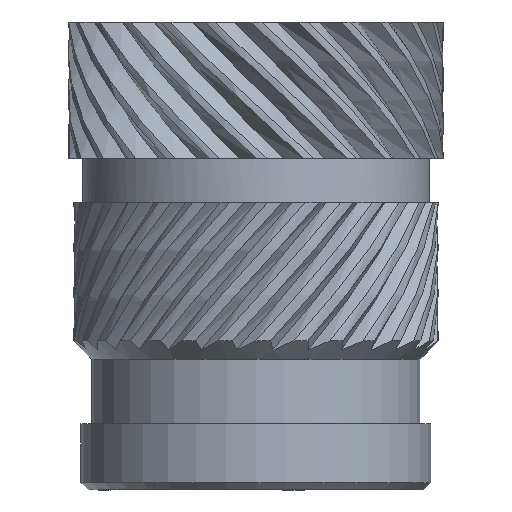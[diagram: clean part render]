
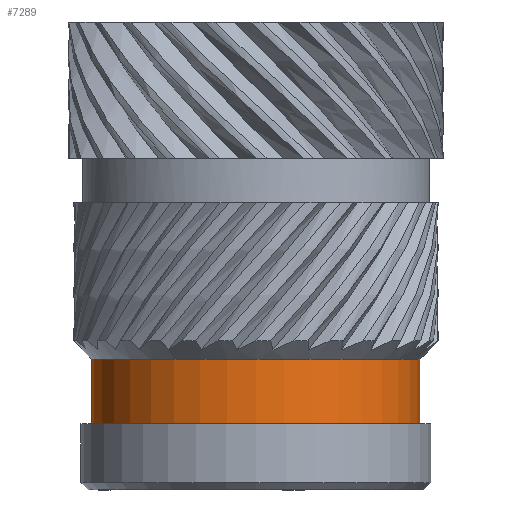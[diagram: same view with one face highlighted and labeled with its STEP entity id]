
A CAD part, front view. The second image highlights one B-rep face of the part: STEP entity #7289.
In plain terms, the highlighted cylindrical face has radius 4.45 mm (diameter 8.9 mm), a full revolution.
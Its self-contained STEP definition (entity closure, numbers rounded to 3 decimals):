
#649=FACE_OUTER_BOUND('',#1098,.T.);
#1098=EDGE_LOOP('',(#5880,#5881,#5882,#5883));
#1322=CIRCLE('',#7563,4.45);
#1474=CIRCLE('',#7830,4.45);
#2140=LINE('',#15125,#2469);
#2469=VECTOR('',#8598,4.45);
#2889=VERTEX_POINT('',#10286);
#3166=VERTEX_POINT('',#15122);
#3641=EDGE_CURVE('',#2889,#2889,#1322,.T.);
#4147=EDGE_CURVE('',#3166,#3166,#1474,.T.);
#4148=EDGE_CURVE('',#2889,#3166,#2140,.T.);
#5880=ORIENTED_EDGE('',*,*,#3641,.F.);
#5881=ORIENTED_EDGE('',*,*,#4148,.T.);
#5882=ORIENTED_EDGE('',*,*,#4147,.T.);
#5883=ORIENTED_EDGE('',*,*,#4148,.F.);
#7033=CYLINDRICAL_SURFACE('',#7831,4.45);
#7289=ADVANCED_FACE('',(#649),#7033,.T.);
#7563=AXIS2_PLACEMENT_3D('',#10288,#8058,#8059);
#7830=AXIS2_PLACEMENT_3D('',#15123,#8594,#8595);
#7831=AXIS2_PLACEMENT_3D('',#15124,#8596,#8597);
#8058=DIRECTION('center_axis',(0.,0.,1.));
#8059=DIRECTION('ref_axis',(1.,0.,0.));
#8594=DIRECTION('center_axis',(0.,0.,1.));
#8595=DIRECTION('ref_axis',(1.,0.,0.));
#8596=DIRECTION('center_axis',(0.,0.,1.));
#8597=DIRECTION('ref_axis',(1.,0.,0.));
#8598=DIRECTION('',(0.,0.,-1.));
#10286=CARTESIAN_POINT('',(-4.45,0.,3.55));
#10288=CARTESIAN_POINT('Origin',(0.,0.,3.55));
#15122=CARTESIAN_POINT('',(-4.45,0.,1.8));
#15123=CARTESIAN_POINT('Origin',(0.,0.,1.8));
#15124=CARTESIAN_POINT('Origin',(0.,0.,2.675));
#15125=CARTESIAN_POINT('',(-4.45,0.,2.675));
